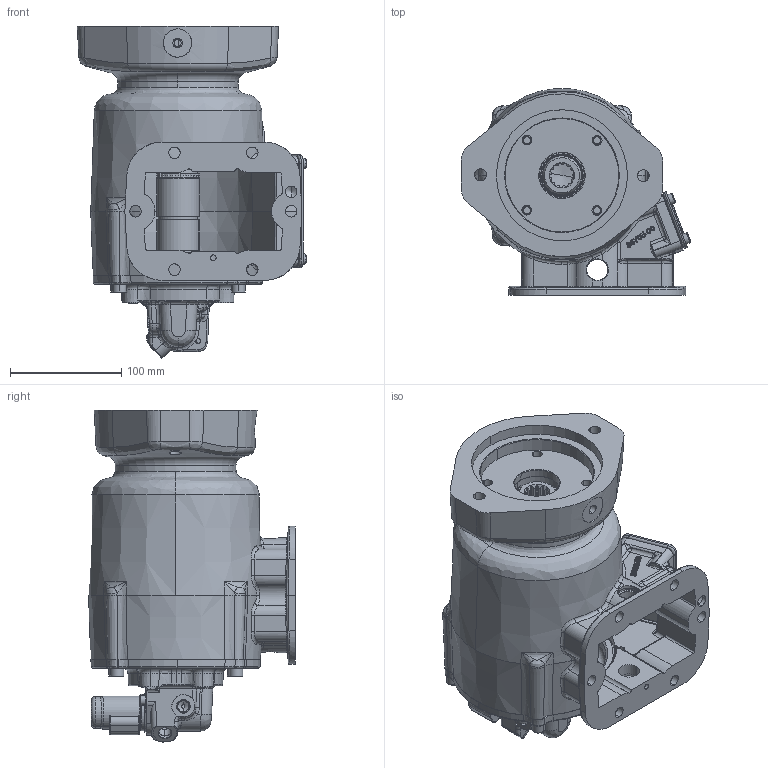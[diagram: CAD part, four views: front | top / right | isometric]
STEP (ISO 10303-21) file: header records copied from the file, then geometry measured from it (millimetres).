
FILE_DESCRIPTION (( 'STEP AP203' ), '1' );
FILE_NAME ('CS6B-XXXXX-S3LX.STEP', '2023-05-24T13:15:37', ( '' ), ( '' ), 'SwSTEP 2.0', 'SolidWorks 2021', '' );
FILE_SCHEMA (( 'CONFIG_CONTROL_DESIGN' ));
Length unit declared in the file: inch
Products named in the file (16): 19T41118; CS6_8 OUTPUT SHAFTS_06T37090; 25T21684; 19T40859; 12T36471; 24T36894; 16T41119; 11T36124-1; 01T37072-01; 15T41597; 12T34003; CS6B-XXXXX-S3LX; 19T36174; 19T35237; 14T40714; 35T40860-2
Assembly tree (27 placements, depth 2):
  CS6B-XXXXX-S3LX
    01T37072-01
    16T41119
    12T34003
    25T21684  x2
    19T41118  x4
    19T36174  x4
    CS6_8 OUTPUT SHAFTS_06T37090
    11T36124-1
    24T36894
    12T36471  x2
    15T41597
    35T40860-2
    19T35237  x4
    19T40859  x2
    14T40714
Bounding box: 205.87 x 185.25 x 297.84 mm (x, y, z)
Volume: 1871542.5 mm3; surface area: 458588.3 mm2
Topology: 28 solids, 28 shells, 2934 faces, 7368 edges, 4551 vertices
Faces by surface type: bspline 925, plane 775, cylinder 720, cone 340, torus 157, sphere 17
Entity records: 167824 total; most frequent: CARTESIAN_POINT 108483, ORIENTED_EDGE 13450, DIRECTION 9448, EDGE_CURVE 6725, VERTEX_POINT 4216, AXIS2_PLACEMENT_3D 3570, EDGE_LOOP 2915, FACE_OUTER_BOUND 2677
